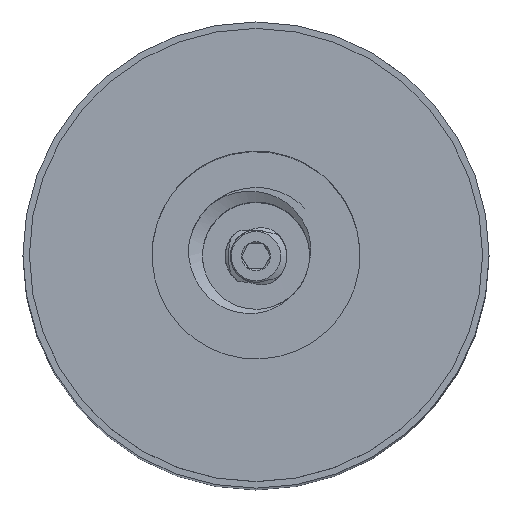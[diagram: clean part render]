
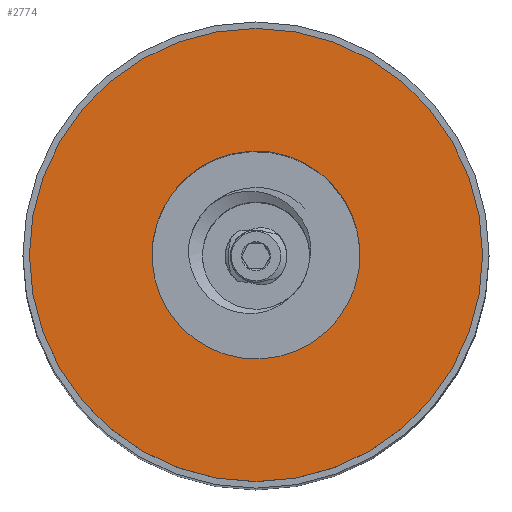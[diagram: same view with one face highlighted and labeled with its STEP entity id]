
A CAD part, top view. The second image highlights one B-rep face of the part: STEP entity #2774.
In plain terms, the highlighted planar face has unit normal (0, 0, 1).
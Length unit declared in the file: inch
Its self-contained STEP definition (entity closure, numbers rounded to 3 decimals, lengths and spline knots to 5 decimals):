
#198=FACE_BOUND('',#509,.T.);
#230=PLANE('',#2991);
#365=FACE_OUTER_BOUND('',#508,.T.);
#508=EDGE_LOOP('',(#2576));
#509=EDGE_LOOP('',(#2577));
#582=CIRCLE('',#2988,0.145);
#583=CIRCLE('',#2990,0.31593);
#1250=VERTEX_POINT('',#9264);
#1251=VERTEX_POINT('',#9268);
#1690=EDGE_CURVE('',#1250,#1250,#582,.T.);
#1692=EDGE_CURVE('',#1251,#1251,#583,.T.);
#2576=ORIENTED_EDGE('',*,*,#1692,.T.);
#2577=ORIENTED_EDGE('',*,*,#1690,.T.);
#2774=ADVANCED_FACE('',(#365,#198),#230,.T.);
#2988=AXIS2_PLACEMENT_3D('',#9265,#3529,#3530);
#2990=AXIS2_PLACEMENT_3D('',#9269,#3534,#3535);
#2991=AXIS2_PLACEMENT_3D('',#9271,#3537,#3538);
#3529=DIRECTION('center_axis',(0.,0.,-1.));
#3530=DIRECTION('ref_axis',(0.126,0.992,0.));
#3534=DIRECTION('center_axis',(0.,0.,1.));
#3535=DIRECTION('ref_axis',(1.,0.,0.));
#3537=DIRECTION('center_axis',(0.,0.,1.));
#3538=DIRECTION('ref_axis',(1.,0.,0.));
#9264=CARTESIAN_POINT('',(1.28904,25.08646,3.43315));
#9265=CARTESIAN_POINT('Origin',(1.30731,25.2303,3.43315));
#9268=CARTESIAN_POINT('',(0.99138,25.2303,3.43315));
#9269=CARTESIAN_POINT('Origin',(1.30731,25.2303,3.43315));
#9271=CARTESIAN_POINT('Origin',(1.30731,25.2303,3.43315));
